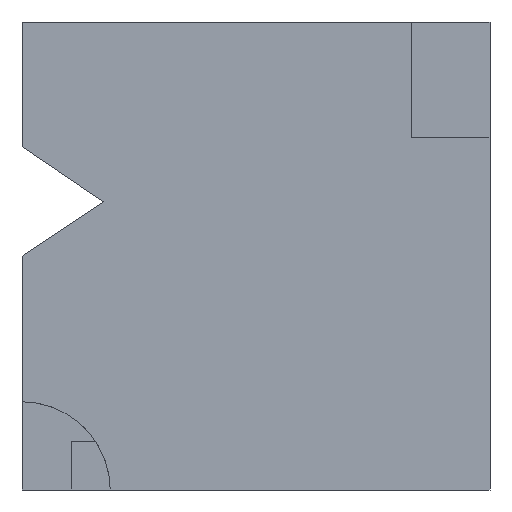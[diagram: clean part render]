
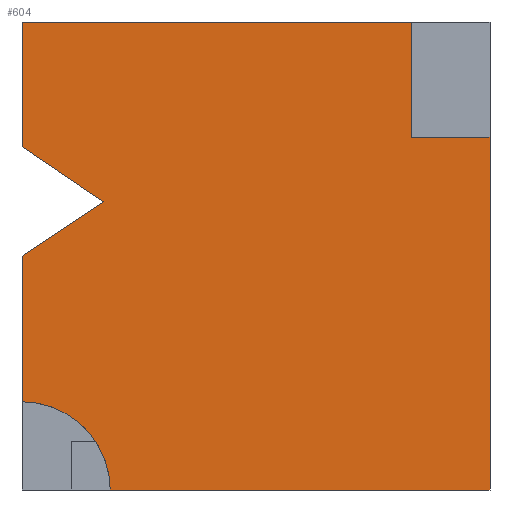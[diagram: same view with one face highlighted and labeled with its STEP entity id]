
A CAD part, left-side view. The second image highlights one B-rep face of the part: STEP entity #604.
In plain terms, the highlighted planar face has unit normal (-1, 0, 0).
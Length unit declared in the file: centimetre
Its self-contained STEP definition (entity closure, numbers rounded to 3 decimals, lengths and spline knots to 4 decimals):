
#9 = DIRECTION ( 'NONE',  ( -1., 0., 0. ) ) ;
#19 = CARTESIAN_POINT ( 'NONE',  ( 0., 1000., 0. ) ) ;
#23 = VECTOR ( 'NONE', #922, 100. ) ;
#26 = AXIS2_PLACEMENT_3D ( 'NONE', #186, #494, #554 ) ;
#28 = VERTEX_POINT ( 'NONE', #750 ) ;
#55 = DIRECTION ( 'NONE',  ( 0., 0., -1. ) ) ;
#61 = CARTESIAN_POINT ( 'NONE',  ( 0., 0., 753.8358 ) ) ;
#63 = DIRECTION ( 'NONE',  ( 0., -1., 0. ) ) ;
#78 = CARTESIAN_POINT ( 'NONE',  ( 0., 1000., 1000. ) ) ;
#88 = DIRECTION ( 'NONE',  ( 0., 0.829, 0.559 ) ) ;
#112 = PLANE ( 'NONE',  #26 ) ;
#126 = VECTOR ( 'NONE', #933, 100. ) ;
#137 = EDGE_CURVE ( 'NONE', #262, #951, #298, .T. ) ;
#155 = LINE ( 'NONE', #847, #480 ) ;
#164 = LINE ( 'NONE', #767, #126 ) ;
#180 = EDGE_CURVE ( 'NONE', #355, #718, #606, .T. ) ;
#186 = CARTESIAN_POINT ( 'NONE',  ( 0., 1000., 1000. ) ) ;
#205 = CARTESIAN_POINT ( 'NONE',  ( 0., 1000., 733.2361 ) ) ;
#212 = VECTOR ( 'NONE', #63, 100. ) ;
#215 = EDGE_CURVE ( 'NONE', #28, #573, #936, .T. ) ;
#256 = VECTOR ( 'NONE', #607, 100. ) ;
#262 = VERTEX_POINT ( 'NONE', #78 ) ;
#268 = EDGE_CURVE ( 'NONE', #28, #603, #155, .T. ) ;
#287 = CARTESIAN_POINT ( 'NONE',  ( 0., 0., 1000. ) ) ;
#291 = VECTOR ( 'NONE', #55, 100. ) ;
#296 = CARTESIAN_POINT ( 'NONE',  ( 0., 0., 753.8358 ) ) ;
#298 = LINE ( 'NONE', #527, #23 ) ;
#300 = DIRECTION ( 'NONE',  ( 0., 0., -1. ) ) ;
#308 = EDGE_CURVE ( 'NONE', #262, #355, #164, .T. ) ;
#318 = ORIENTED_EDGE ( 'NONE', *, *, #499, .F. ) ;
#334 = CARTESIAN_POINT ( 'NONE',  ( 0., 1000., 188.5076 ) ) ;
#353 = LINE ( 'NONE', #535, #212 ) ;
#355 = VERTEX_POINT ( 'NONE', #700 ) ;
#380 = LINE ( 'NONE', #540, #874 ) ;
#381 = CARTESIAN_POINT ( 'NONE',  ( 0., 167.5501, 753.8358 ) ) ;
#397 = EDGE_LOOP ( 'NONE', ( #410, #781, #502, #959, #806, #585, #861, #889, #318, #675 ) ) ;
#406 = EDGE_CURVE ( 'NONE', #603, #951, #380, .T. ) ;
#410 = ORIENTED_EDGE ( 'NONE', *, *, #849, .F. ) ;
#478 = CARTESIAN_POINT ( 'NONE',  ( 0., 0., 0. ) ) ;
#480 = VECTOR ( 'NONE', #854, 100. ) ;
#494 = DIRECTION ( 'NONE',  ( 1., 0., 0. ) ) ;
#498 = CIRCLE ( 'NONE', #1002, 188.5076 ) ;
#499 = EDGE_CURVE ( 'NONE', #634, #573, #498, .T. ) ;
#502 = ORIENTED_EDGE ( 'NONE', *, *, #180, .F. ) ;
#504 = CARTESIAN_POINT ( 'NONE',  ( 0., 811.4924, 0. ) ) ;
#518 = LINE ( 'NONE', #287, #291 ) ;
#527 = CARTESIAN_POINT ( 'NONE',  ( 0., 1000., 1000. ) ) ;
#535 = CARTESIAN_POINT ( 'NONE',  ( 0., 1000., 0. ) ) ;
#540 = CARTESIAN_POINT ( 'NONE',  ( 0., 825.0771, 615.3847 ) ) ;
#554 = DIRECTION ( 'NONE',  ( 0., 0., -1. ) ) ;
#570 = CARTESIAN_POINT ( 'NONE',  ( 0., 825.0771, 615.3847 ) ) ;
#573 = VERTEX_POINT ( 'NONE', #334 ) ;
#585 = ORIENTED_EDGE ( 'NONE', *, *, #406, .F. ) ;
#591 = VERTEX_POINT ( 'NONE', #478 ) ;
#594 = CARTESIAN_POINT ( 'NONE',  ( 0., 167.5501, 753.8358 ) ) ;
#603 = VERTEX_POINT ( 'NONE', #570 ) ;
#604 = ADVANCED_FACE ( 'NONE', ( #649 ), #112, .F. ) ;
#606 = LINE ( 'NONE', #381, #822 ) ;
#607 = DIRECTION ( 'NONE',  ( 0., -1., 0. ) ) ;
#634 = VERTEX_POINT ( 'NONE', #504 ) ;
#649 = FACE_OUTER_BOUND ( 'NONE', #397, .T. ) ;
#668 = LINE ( 'NONE', #296, #256 ) ;
#675 = ORIENTED_EDGE ( 'NONE', *, *, #862, .T. ) ;
#700 = CARTESIAN_POINT ( 'NONE',  ( 0., 167.5501, 1000. ) ) ;
#718 = VERTEX_POINT ( 'NONE', #594 ) ;
#728 = VERTEX_POINT ( 'NONE', #61 ) ;
#750 = CARTESIAN_POINT ( 'NONE',  ( 0., 1000., 500. ) ) ;
#767 = CARTESIAN_POINT ( 'NONE',  ( 0., 1000., 1000. ) ) ;
#781 = ORIENTED_EDGE ( 'NONE', *, *, #900, .F. ) ;
#802 = VECTOR ( 'NONE', #300, 100. ) ;
#806 = ORIENTED_EDGE ( 'NONE', *, *, #137, .T. ) ;
#822 = VECTOR ( 'NONE', #1000, 100. ) ;
#847 = CARTESIAN_POINT ( 'NONE',  ( 0., 1000., 500. ) ) ;
#849 = EDGE_CURVE ( 'NONE', #728, #591, #518, .T. ) ;
#854 = DIRECTION ( 'NONE',  ( 0., -0.835, 0.551 ) ) ;
#860 = CARTESIAN_POINT ( 'NONE',  ( 0., 1000., 1000. ) ) ;
#861 = ORIENTED_EDGE ( 'NONE', *, *, #268, .F. ) ;
#862 = EDGE_CURVE ( 'NONE', #634, #591, #353, .T. ) ;
#874 = VECTOR ( 'NONE', #88, 100. ) ;
#889 = ORIENTED_EDGE ( 'NONE', *, *, #215, .T. ) ;
#900 = EDGE_CURVE ( 'NONE', #718, #728, #668, .T. ) ;
#922 = DIRECTION ( 'NONE',  ( 0., 0., -1. ) ) ;
#933 = DIRECTION ( 'NONE',  ( 0., -1., 0. ) ) ;
#936 = LINE ( 'NONE', #860, #802 ) ;
#948 = DIRECTION ( 'NONE',  ( 0., 0., 1. ) ) ;
#951 = VERTEX_POINT ( 'NONE', #205 ) ;
#959 = ORIENTED_EDGE ( 'NONE', *, *, #308, .F. ) ;
#1000 = DIRECTION ( 'NONE',  ( 0., 0., -1. ) ) ;
#1002 = AXIS2_PLACEMENT_3D ( 'NONE', #19, #9, #948 ) ;
